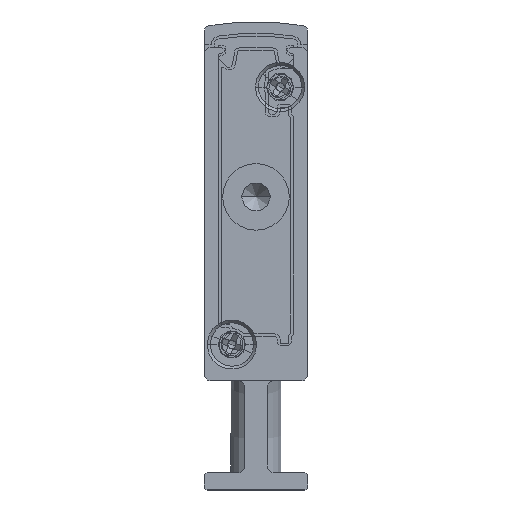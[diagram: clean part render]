
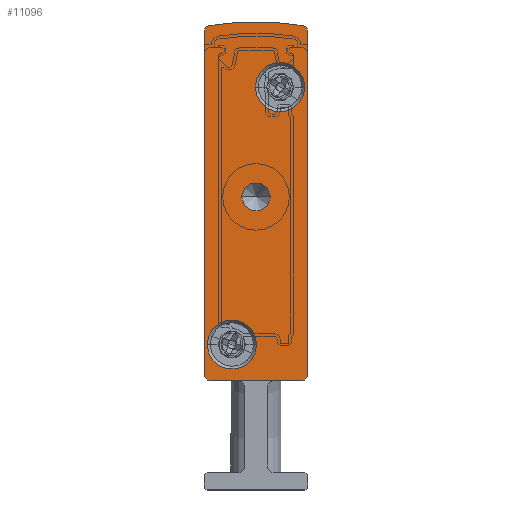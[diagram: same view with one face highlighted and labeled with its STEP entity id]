
A CAD part, front view. The second image highlights one B-rep face of the part: STEP entity #11096.
In plain terms, the highlighted planar face has unit normal (0, -1, 0).
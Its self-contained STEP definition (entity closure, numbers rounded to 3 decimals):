
#76 = VERTEX_POINT ( 'NONE', #18595 ) ;
#89 = DIRECTION ( 'NONE',  ( -1., 0., 0. ) ) ;
#123 = CARTESIAN_POINT ( 'NONE',  ( 4.5, -2.5, 17.092 ) ) ;
#294 = VERTEX_POINT ( 'NONE', #18975 ) ;
#309 = VERTEX_POINT ( 'NONE', #6494 ) ;
#355 = EDGE_CURVE ( 'NONE', #16640, #294, #14022, .T. ) ;
#494 = VERTEX_POINT ( 'NONE', #16249 ) ;
#984 = EDGE_CURVE ( 'NONE', #309, #494, #18716, .T. ) ;
#1081 = CARTESIAN_POINT ( 'NONE',  ( 4.5, -2.5, 25.5 ) ) ;
#1232 = ORIENTED_EDGE ( 'NONE', *, *, #1330, .T. ) ;
#1330 = EDGE_CURVE ( 'NONE', #14496, #76, #6000, .T. ) ;
#1378 = DIRECTION ( 'NONE',  ( -1., 0., 0. ) ) ;
#1507 = ORIENTED_EDGE ( 'NONE', *, *, #10348, .F. ) ;
#1682 = EDGE_LOOP ( 'NONE', ( #9994, #1232 ) ) ;
#1701 = VERTEX_POINT ( 'NONE', #12698 ) ;
#1803 = DIRECTION ( 'NONE',  ( -1., 0., 0. ) ) ;
#1904 = VERTEX_POINT ( 'NONE', #17468 ) ;
#2158 = CARTESIAN_POINT ( 'NONE',  ( 9., -2.5, 39.902 ) ) ;
#2174 = CIRCLE ( 'NONE', #9887, 2.15 ) ;
#2365 = DIRECTION ( 'NONE',  ( -1., 0., 0. ) ) ;
#2500 = CARTESIAN_POINT ( 'NONE',  ( 0., -2.5, 39.902 ) ) ;
#2551 = CARTESIAN_POINT ( 'NONE',  ( 2.4, -2.5, 12.65 ) ) ;
#2554 = FACE_BOUND ( 'NONE', #1682, .T. ) ;
#3029 = DIRECTION ( 'NONE',  ( -1., 0., 0. ) ) ;
#3032 = DIRECTION ( 'NONE',  ( 0., 1., 0. ) ) ;
#3051 = DIRECTION ( 'NONE',  ( 0., 1., 0. ) ) ;
#3735 = ORIENTED_EDGE ( 'NONE', *, *, #9761, .F. ) ;
#3755 = DIRECTION ( 'NONE',  ( 0., 0., 1. ) ) ;
#3807 = CIRCLE ( 'NONE', #18956, 0.5 ) ;
#4011 = EDGE_CURVE ( 'NONE', #19322, #9622, #10295, .T. ) ;
#4151 = DIRECTION ( 'NONE',  ( -1., 0., 0. ) ) ;
#4167 = VECTOR ( 'NONE', #9673, 1000. ) ;
#4431 = CARTESIAN_POINT ( 'NONE',  ( 8.5, -2.5, 10. ) ) ;
#4437 = AXIS2_PLACEMENT_3D ( 'NONE', #4431, #3032, #12326 ) ;
#5179 = LINE ( 'NONE', #12990, #9302 ) ;
#5278 = CIRCLE ( 'NONE', #10988, 0.5 ) ;
#5377 = EDGE_LOOP ( 'NONE', ( #18427, #8643 ) ) ;
#5635 = CARTESIAN_POINT ( 'NONE',  ( 2.4, -2.5, 12.65 ) ) ;
#5746 = LINE ( 'NONE', #2500, #11789 ) ;
#5892 = AXIS2_PLACEMENT_3D ( 'NONE', #1081, #7274, #4151 ) ;
#6000 = CIRCLE ( 'NONE', #5892, 1.25 ) ;
#6391 = AXIS2_PLACEMENT_3D ( 'NONE', #17187, #9257, #15394 ) ;
#6494 = CARTESIAN_POINT ( 'NONE',  ( 8.75, -2.5, 35.05 ) ) ;
#6665 = ORIENTED_EDGE ( 'NONE', *, *, #355, .F. ) ;
#6787 = VERTEX_POINT ( 'NONE', #12285 ) ;
#7187 = CIRCLE ( 'NONE', #13481, 1.25 ) ;
#7274 = DIRECTION ( 'NONE',  ( 0., 1., 0. ) ) ;
#7332 = DIRECTION ( 'NONE',  ( 1., 0., 0. ) ) ;
#7375 = EDGE_CURVE ( 'NONE', #1904, #8354, #16285, .T. ) ;
#7574 = CARTESIAN_POINT ( 'NONE',  ( 0.25, -2.5, 12.65 ) ) ;
#7751 = CARTESIAN_POINT ( 'NONE',  ( 8.592, -2.5, 40.393 ) ) ;
#7925 = CARTESIAN_POINT ( 'NONE',  ( 8.5, -2.5, 39.902 ) ) ;
#7944 = EDGE_CURVE ( 'NONE', #1701, #6787, #5278, .T. ) ;
#8012 = EDGE_CURVE ( 'NONE', #6787, #10014, #5746, .T. ) ;
#8118 = CIRCLE ( 'NONE', #18102, 0.5 ) ;
#8354 = VERTEX_POINT ( 'NONE', #7751 ) ;
#8643 = ORIENTED_EDGE ( 'NONE', *, *, #18695, .F. ) ;
#8968 = CARTESIAN_POINT ( 'NONE',  ( 6.6, -2.5, 35.05 ) ) ;
#9257 = DIRECTION ( 'NONE',  ( 0., -1., 0. ) ) ;
#9302 = VECTOR ( 'NONE', #18882, 1000. ) ;
#9541 = AXIS2_PLACEMENT_3D ( 'NONE', #10604, #3051, #1378 ) ;
#9622 = VERTEX_POINT ( 'NONE', #13573 ) ;
#9673 = DIRECTION ( 'NONE',  ( 0., 0., -1. ) ) ;
#9731 = AXIS2_PLACEMENT_3D ( 'NONE', #8968, #13610, #15021 ) ;
#9761 = EDGE_CURVE ( 'NONE', #294, #17678, #16612, .T. ) ;
#9887 = AXIS2_PLACEMENT_3D ( 'NONE', #5635, #11849, #7332 ) ;
#9994 = ORIENTED_EDGE ( 'NONE', *, *, #10524, .T. ) ;
#10014 = VERTEX_POINT ( 'NONE', #11533 ) ;
#10081 = DIRECTION ( 'NONE',  ( 0., -1., 0. ) ) ;
#10147 = DIRECTION ( 'NONE',  ( 1., 0., 0. ) ) ;
#10164 = CARTESIAN_POINT ( 'NONE',  ( 0.5, -2.5, 10. ) ) ;
#10295 = CIRCLE ( 'NONE', #17235, 2.15 ) ;
#10348 = EDGE_CURVE ( 'NONE', #9622, #19322, #2174, .T. ) ;
#10524 = EDGE_CURVE ( 'NONE', #76, #14496, #7187, .T. ) ;
#10604 = CARTESIAN_POINT ( 'NONE',  ( 0.5, -2.5, 39.902 ) ) ;
#10982 = FACE_BOUND ( 'NONE', #15018, .T. ) ;
#10988 = AXIS2_PLACEMENT_3D ( 'NONE', #10164, #16095, #2365 ) ;
#11039 = DIRECTION ( 'NONE',  ( 0., 1., 0. ) ) ;
#11075 = DIRECTION ( 'NONE',  ( -1., 0., 0. ) ) ;
#11096 = ADVANCED_FACE ( 'NONE', ( #17613, #10982, #18092, #2554 ), #19679, .F. ) ;
#11533 = CARTESIAN_POINT ( 'NONE',  ( 0., -2.5, 39.902 ) ) ;
#11789 = VECTOR ( 'NONE', #3755, 1000. ) ;
#11849 = DIRECTION ( 'NONE',  ( 0., -1., 0. ) ) ;
#12285 = CARTESIAN_POINT ( 'NONE',  ( 0., -2.5, 10. ) ) ;
#12326 = DIRECTION ( 'NONE',  ( -1., 0., 0. ) ) ;
#12698 = CARTESIAN_POINT ( 'NONE',  ( 0.5, -2.5, 9.5 ) ) ;
#12871 = CIRCLE ( 'NONE', #9731, 2.15 ) ;
#12990 = CARTESIAN_POINT ( 'NONE',  ( 0.5, -2.5, 9.5 ) ) ;
#13481 = AXIS2_PLACEMENT_3D ( 'NONE', #17025, #11039, #1803 ) ;
#13573 = CARTESIAN_POINT ( 'NONE',  ( 4.55, -2.5, 12.65 ) ) ;
#13610 = DIRECTION ( 'NONE',  ( 0., -1., 0. ) ) ;
#13901 = DIRECTION ( 'NONE',  ( 0., 1., 0. ) ) ;
#14022 = LINE ( 'NONE', #18730, #4167 ) ;
#14496 = VERTEX_POINT ( 'NONE', #19797 ) ;
#14564 = CARTESIAN_POINT ( 'NONE',  ( 8.5, -2.5, 9.5 ) ) ;
#14578 = EDGE_CURVE ( 'NONE', #10014, #1904, #3807, .T. ) ;
#14786 = AXIS2_PLACEMENT_3D ( 'NONE', #123, #13901, #3029 ) ;
#14983 = EDGE_LOOP ( 'NONE', ( #14990, #18550, #18320, #15090, #3735, #6665, #15614, #18713 ) ) ;
#14990 = ORIENTED_EDGE ( 'NONE', *, *, #14578, .F. ) ;
#15018 = EDGE_LOOP ( 'NONE', ( #1507, #19330 ) ) ;
#15021 = DIRECTION ( 'NONE',  ( 1., 0., 0. ) ) ;
#15090 = ORIENTED_EDGE ( 'NONE', *, *, #17629, .F. ) ;
#15394 = DIRECTION ( 'NONE',  ( 1., 0., 0. ) ) ;
#15614 = ORIENTED_EDGE ( 'NONE', *, *, #17287, .F. ) ;
#15774 = CARTESIAN_POINT ( 'NONE',  ( 0.5, -2.5, 39.902 ) ) ;
#16095 = DIRECTION ( 'NONE',  ( 0., 1., 0. ) ) ;
#16249 = CARTESIAN_POINT ( 'NONE',  ( 4.45, -2.5, 35.05 ) ) ;
#16285 = CIRCLE ( 'NONE', #14786, 23.658 ) ;
#16612 = CIRCLE ( 'NONE', #4437, 0.5 ) ;
#16640 = VERTEX_POINT ( 'NONE', #2158 ) ;
#17025 = CARTESIAN_POINT ( 'NONE',  ( 4.5, -2.5, 25.5 ) ) ;
#17057 = DIRECTION ( 'NONE',  ( 0., 1., 0. ) ) ;
#17187 = CARTESIAN_POINT ( 'NONE',  ( 6.6, -2.5, 35.05 ) ) ;
#17235 = AXIS2_PLACEMENT_3D ( 'NONE', #2551, #10081, #10147 ) ;
#17287 = EDGE_CURVE ( 'NONE', #8354, #16640, #8118, .T. ) ;
#17468 = CARTESIAN_POINT ( 'NONE',  ( 0.408, -2.5, 40.393 ) ) ;
#17613 = FACE_BOUND ( 'NONE', #5377, .T. ) ;
#17629 = EDGE_CURVE ( 'NONE', #17678, #1701, #5179, .T. ) ;
#17678 = VERTEX_POINT ( 'NONE', #14564 ) ;
#18092 = FACE_OUTER_BOUND ( 'NONE', #14983, .T. ) ;
#18102 = AXIS2_PLACEMENT_3D ( 'NONE', #7925, #18586, #89 ) ;
#18320 = ORIENTED_EDGE ( 'NONE', *, *, #7944, .F. ) ;
#18427 = ORIENTED_EDGE ( 'NONE', *, *, #984, .F. ) ;
#18550 = ORIENTED_EDGE ( 'NONE', *, *, #8012, .F. ) ;
#18586 = DIRECTION ( 'NONE',  ( 0., 1., 0. ) ) ;
#18595 = CARTESIAN_POINT ( 'NONE',  ( 3.25, -2.5, 25.5 ) ) ;
#18695 = EDGE_CURVE ( 'NONE', #494, #309, #12871, .T. ) ;
#18713 = ORIENTED_EDGE ( 'NONE', *, *, #7375, .F. ) ;
#18716 = CIRCLE ( 'NONE', #6391, 2.15 ) ;
#18730 = CARTESIAN_POINT ( 'NONE',  ( 9., -2.5, 39.902 ) ) ;
#18882 = DIRECTION ( 'NONE',  ( -1., 0., 0. ) ) ;
#18956 = AXIS2_PLACEMENT_3D ( 'NONE', #15774, #17057, #11075 ) ;
#18975 = CARTESIAN_POINT ( 'NONE',  ( 9., -2.5, 10. ) ) ;
#19322 = VERTEX_POINT ( 'NONE', #7574 ) ;
#19330 = ORIENTED_EDGE ( 'NONE', *, *, #4011, .F. ) ;
#19679 = PLANE ( 'NONE',  #9541 ) ;
#19797 = CARTESIAN_POINT ( 'NONE',  ( 5.75, -2.5, 25.5 ) ) ;
